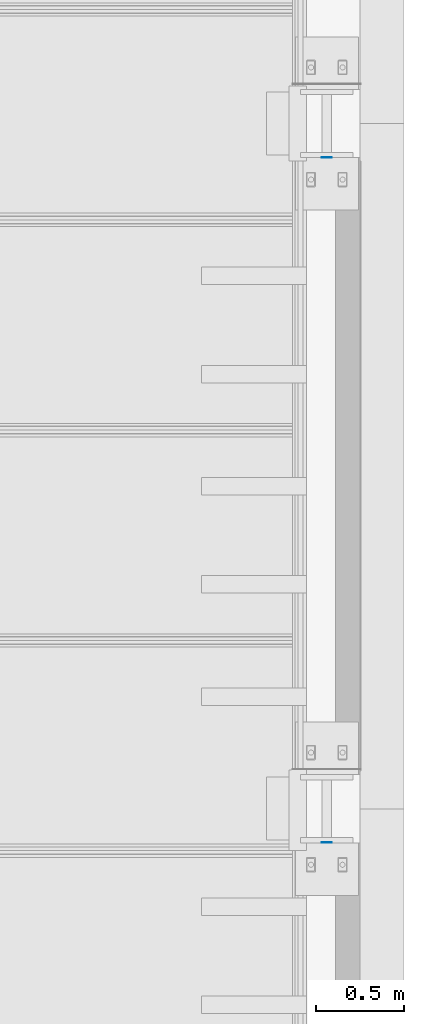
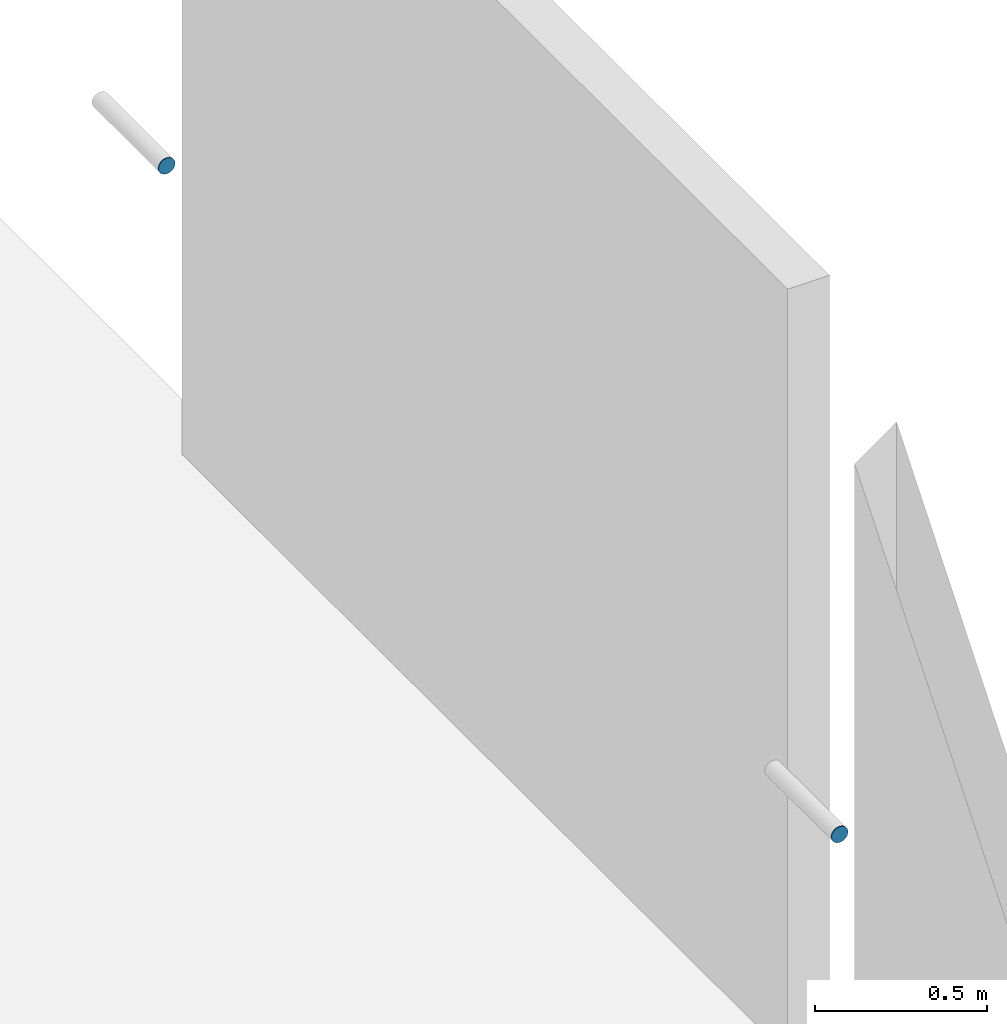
# One storey, part 49 of 230: 2 beams.
"""IFC4X3_ADD2 building model written with IfcOpenShell, lengths in millimetres."""

from ifc_helpers import new_model, si_unit, direction, frame, origin_with_axes, place, context, subcontext, project, spatial, indexed_curve, outline, extrude, material, element, save


model = new_model("IFC4X3_ADD2")

# Units and contexts
model_context = context("Model", 3, precision=1e-05, world=origin_with_axes(), true_north=direction((0.0, 1.0)))
body_context = subcontext(model_context, "Body", "Model", "MODEL_VIEW")
ifc_project = project(units=[si_unit("LENGTHUNIT", "METRE", prefix="MILLI"), si_unit("AREAUNIT", "SQUARE_METRE"), si_unit("VOLUMEUNIT", "CUBIC_METRE"), si_unit("PLANEANGLEUNIT", "RADIAN"), si_unit("TIMEUNIT", "SECOND"), si_unit("MASSUNIT", "GRAM")], contexts=[model_context])

# Site, building, storey
site_placement = place(None, origin_with_axes())
site = spatial("IfcSite", under=ifc_project, at=site_placement, Name="Site", CompositionType="ELEMENT")
building_placement = place(site_placement, origin_with_axes())
building = spatial("IfcBuilding", under=site, at=building_placement, Name="IFC Building Story")
storey_placement = place(building_placement, origin_with_axes())
storey = spatial("IfcBuildingStorey", under=building, at=storey_placement, Name="ETAGE 00 (0)", Elevation=0.0)

# Beams
ifc_material = material(Name="STEEL/Accessory 22919")
beam_1_placement = place(storey_placement, frame((48311.18863623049, 4608.000610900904, 1040.0), z_axis=(0.0, -1.0, 0.0), x_axis=(-0.1950903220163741, 0.0, 0.9807852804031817)))
element("IfcBeam", 1, at=beam_1_placement, inside=storey, material=ifc_material, Name="TA4", ObjectType="D56", context=body_context, shape_type="SweptSolid", body=[
    extrude(outline(indexed_curve([(23.28114914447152, 15.55596652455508), (27.46198785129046, 5.462529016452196), (27.46198785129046, -5.462529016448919), (23.28114914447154, -15.55596652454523), (15.55596652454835, -23.28114914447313), (5.462529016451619, -27.46198785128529), (-5.462529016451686, -27.46198785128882), (-15.55596652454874, -23.28114914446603), (-23.2811491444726, -15.55596652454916), (-27.46198785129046, -5.462529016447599), (-27.46198785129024, 5.462529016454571), (-23.28114914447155, 15.55596652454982), (-15.55596652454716, 23.28114914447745), (-5.462529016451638, 27.46198785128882), (5.462529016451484, 27.46198785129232), (15.55596652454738, 23.28114914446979), (23.28114914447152, 15.55596652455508)])), origin_with_axes(), (0.0, 0.0, 1.0), 3.000000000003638),
])
beam_2_placement = place(storey_placement, frame((48311.18863623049, 8518.000610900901, 1040.0), z_axis=(0.0, -1.0, 0.0), x_axis=(-0.1950903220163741, 0.0, 0.9807852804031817)))
element("IfcBeam", 2, at=beam_2_placement, inside=storey, material=ifc_material, Name="TA4", ObjectType="D56", context=body_context, shape_type="SweptSolid", body=[
    extrude(outline(indexed_curve([(23.28114914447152, 15.55596652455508), (27.46198785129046, 5.462529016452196), (27.46198785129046, -5.462529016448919), (23.28114914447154, -15.55596652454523), (15.55596652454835, -23.28114914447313), (5.462529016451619, -27.46198785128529), (-5.462529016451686, -27.46198785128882), (-15.55596652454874, -23.28114914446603), (-23.2811491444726, -15.55596652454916), (-27.46198785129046, -5.462529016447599), (-27.46198785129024, 5.462529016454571), (-23.28114914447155, 15.55596652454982), (-15.55596652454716, 23.28114914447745), (-5.462529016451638, 27.46198785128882), (5.462529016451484, 27.46198785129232), (15.55596652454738, 23.28114914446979), (23.28114914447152, 15.55596652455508)])), origin_with_axes(), (0.0, 0.0, 1.0), 3.000000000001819),
])

save(model, "model.ifc")
